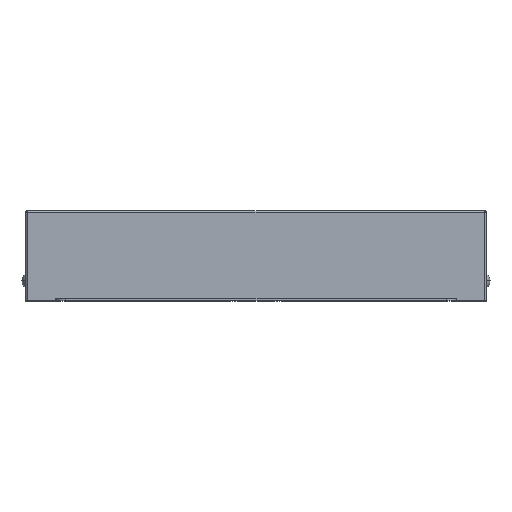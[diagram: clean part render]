
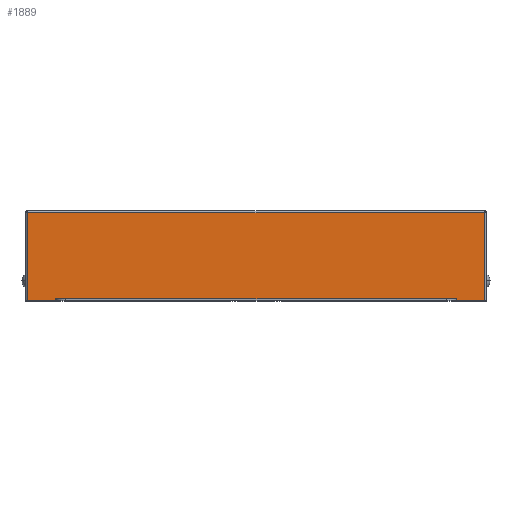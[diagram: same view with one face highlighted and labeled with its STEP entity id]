
A CAD part, top view. The second image highlights one B-rep face of the part: STEP entity #1889.
In plain terms, the highlighted planar face has unit normal (0, 0, 1).
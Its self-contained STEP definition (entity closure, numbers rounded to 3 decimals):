
#1 = VERTEX_POINT ( 'NONE', #800 ) ;
#106 = VERTEX_POINT ( 'NONE', #688 ) ;
#126 = CARTESIAN_POINT ( 'NONE',  ( 114., 44., 115. ) ) ;
#181 = DIRECTION ( 'NONE',  ( 0., 1., 0. ) ) ;
#197 = ORIENTED_EDGE ( 'NONE', *, *, #2075, .T. ) ;
#205 = EDGE_CURVE ( 'NONE', #594, #3132, #3087, .T. ) ;
#215 = PLANE ( 'NONE',  #2578 ) ;
#229 = VECTOR ( 'NONE', #2702, 1000. ) ;
#252 = EDGE_LOOP ( 'NONE', ( #1925, #1772, #536, #545, #1242, #3143, #197, #2170 ) ) ;
#340 = VECTOR ( 'NONE', #1109, 1000. ) ;
#434 = EDGE_CURVE ( 'NONE', #106, #1224, #1620, .T. ) ;
#448 = LINE ( 'NONE', #1138, #1134 ) ;
#528 = DIRECTION ( 'NONE',  ( 0., 1., 0. ) ) ;
#536 = ORIENTED_EDGE ( 'NONE', *, *, #2055, .T. ) ;
#545 = ORIENTED_EDGE ( 'NONE', *, *, #205, .T. ) ;
#594 = VERTEX_POINT ( 'NONE', #2379 ) ;
#595 = CARTESIAN_POINT ( 'NONE',  ( -114., 1., 115. ) ) ;
#647 = EDGE_CURVE ( 'NONE', #1224, #2688, #1972, .T. ) ;
#688 = CARTESIAN_POINT ( 'NONE',  ( 99.998, 0., 115. ) ) ;
#743 = CARTESIAN_POINT ( 'NONE',  ( -114., 45., 115. ) ) ;
#800 = CARTESIAN_POINT ( 'NONE',  ( -99.998, 0., 115. ) ) ;
#930 = VECTOR ( 'NONE', #2597, 1000. ) ;
#934 = FACE_OUTER_BOUND ( 'NONE', #252, .T. ) ;
#994 = CARTESIAN_POINT ( 'NONE',  ( 114., 45., 115. ) ) ;
#1045 = VECTOR ( 'NONE', #1845, 1000. ) ;
#1093 = CARTESIAN_POINT ( 'NONE',  ( -115., 44., 115. ) ) ;
#1109 = DIRECTION ( 'NONE',  ( -1., 0., 0. ) ) ;
#1134 = VECTOR ( 'NONE', #181, 1000. ) ;
#1138 = CARTESIAN_POINT ( 'NONE',  ( 99.998, 0., 115. ) ) ;
#1224 = VERTEX_POINT ( 'NONE', #1637 ) ;
#1242 = ORIENTED_EDGE ( 'NONE', *, *, #3044, .T. ) ;
#1453 = LINE ( 'NONE', #1913, #2006 ) ;
#1531 = LINE ( 'NONE', #1548, #1726 ) ;
#1548 = CARTESIAN_POINT ( 'NONE',  ( -115., 0., 115. ) ) ;
#1620 = LINE ( 'NONE', #2104, #930 ) ;
#1632 = DIRECTION ( 'NONE',  ( 0., 0., -1. ) ) ;
#1637 = CARTESIAN_POINT ( 'NONE',  ( 114., 0., 115. ) ) ;
#1654 = CARTESIAN_POINT ( 'NONE',  ( 99.998, 1., 115. ) ) ;
#1726 = VECTOR ( 'NONE', #2522, 1000. ) ;
#1772 = ORIENTED_EDGE ( 'NONE', *, *, #647, .T. ) ;
#1792 = LINE ( 'NONE', #595, #2108 ) ;
#1799 = CARTESIAN_POINT ( 'NONE',  ( -114., 0., 115. ) ) ;
#1845 = DIRECTION ( 'NONE',  ( 0., -1., 0. ) ) ;
#1889 = ADVANCED_FACE ( 'NONE', ( #934 ), #215, .F. ) ;
#1913 = CARTESIAN_POINT ( 'NONE',  ( -99.998, 0., 115. ) ) ;
#1923 = EDGE_CURVE ( 'NONE', #1, #2438, #1453, .T. ) ;
#1925 = ORIENTED_EDGE ( 'NONE', *, *, #434, .T. ) ;
#1972 = LINE ( 'NONE', #994, #229 ) ;
#2006 = VECTOR ( 'NONE', #528, 1000. ) ;
#2055 = EDGE_CURVE ( 'NONE', #2688, #594, #3024, .T. ) ;
#2067 = DIRECTION ( 'NONE',  ( 1., 0., 0. ) ) ;
#2075 = EDGE_CURVE ( 'NONE', #2438, #2498, #1792, .T. ) ;
#2104 = CARTESIAN_POINT ( 'NONE',  ( -115., 0., 115. ) ) ;
#2108 = VECTOR ( 'NONE', #2067, 1000. ) ;
#2147 = CARTESIAN_POINT ( 'NONE',  ( -115., 45., 115. ) ) ;
#2170 = ORIENTED_EDGE ( 'NONE', *, *, #2788, .F. ) ;
#2180 = DIRECTION ( 'NONE',  ( 0., -1., 0. ) ) ;
#2379 = CARTESIAN_POINT ( 'NONE',  ( -114., 44., 115. ) ) ;
#2438 = VERTEX_POINT ( 'NONE', #2840 ) ;
#2498 = VERTEX_POINT ( 'NONE', #1654 ) ;
#2522 = DIRECTION ( 'NONE',  ( 1., 0., 0. ) ) ;
#2578 = AXIS2_PLACEMENT_3D ( 'NONE', #2147, #1632, #2180 ) ;
#2597 = DIRECTION ( 'NONE',  ( 1., 0., 0. ) ) ;
#2688 = VERTEX_POINT ( 'NONE', #126 ) ;
#2702 = DIRECTION ( 'NONE',  ( 0., 1., 0. ) ) ;
#2788 = EDGE_CURVE ( 'NONE', #106, #2498, #448, .T. ) ;
#2840 = CARTESIAN_POINT ( 'NONE',  ( -99.998, 1., 115. ) ) ;
#3024 = LINE ( 'NONE', #1093, #340 ) ;
#3044 = EDGE_CURVE ( 'NONE', #3132, #1, #1531, .T. ) ;
#3087 = LINE ( 'NONE', #743, #1045 ) ;
#3132 = VERTEX_POINT ( 'NONE', #1799 ) ;
#3143 = ORIENTED_EDGE ( 'NONE', *, *, #1923, .T. ) ;
